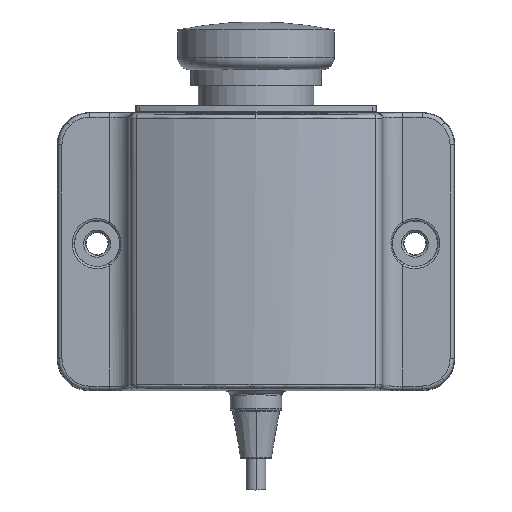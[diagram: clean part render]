
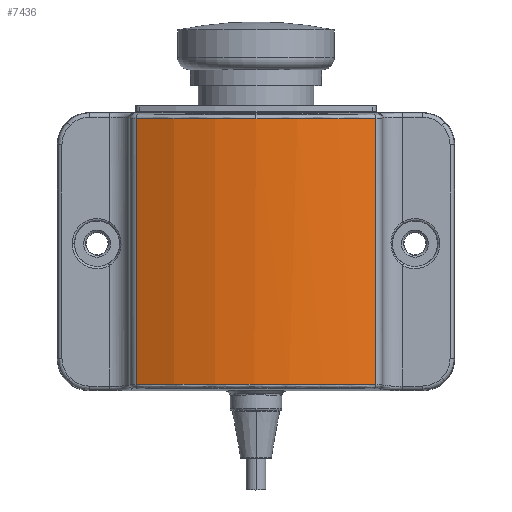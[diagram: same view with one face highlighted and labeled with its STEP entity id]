
A CAD part, top view. The second image highlights one B-rep face of the part: STEP entity #7436.
In plain terms, the highlighted cylindrical face has radius 62 mm (diameter 124 mm), a partial arc.
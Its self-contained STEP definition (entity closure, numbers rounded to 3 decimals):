
#831 = FACE_OUTER_BOUND ( 'NONE', #4131, .T. ) ;
#840 = CYLINDRICAL_SURFACE ( 'NONE', #11104, 62. ) ;
#1167 = LINE ( 'NONE', #6131, #1168 ) ;
#1168 = VECTOR ( 'NONE', #6132, 1000. ) ;
#1169 = LINE ( 'NONE', #6133, #1170 ) ;
#1170 = VECTOR ( 'NONE', #6134, 1000. ) ;
#1381 = CARTESIAN_POINT ( 'NONE',  ( -35.995, -38.626, 27.497 ) ) ;
#1385 = CARTESIAN_POINT ( 'NONE',  ( -16.799, -38.443, 38.194 ) ) ;
#1386 = CARTESIAN_POINT ( 'NONE',  ( 5.176, -38.443, 38.194 ) ) ;
#1387 = CARTESIAN_POINT ( 'NONE',  ( 24.371, -38.626, 27.497 ) ) ;
#1911 = ORIENTED_EDGE ( 'NONE', *, *, #12194, .T. ) ;
#3880 = EDGE_CURVE ( 'NONE', #6963, #7036, #10241, .T. ) ;
#4131 = EDGE_LOOP ( 'NONE', ( #5410, #5548, #5518, #5520, #1911 ) ) ;
#5410 = ORIENTED_EDGE ( 'NONE', *, *, #12162, .T. ) ;
#5518 = ORIENTED_EDGE ( 'NONE', *, *, #12161, .T. ) ;
#5520 = ORIENTED_EDGE ( 'NONE', *, *, #12185, .T. ) ;
#5548 = ORIENTED_EDGE ( 'NONE', *, *, #3880, .T. ) ;
#6131 = CARTESIAN_POINT ( 'NONE',  ( 24.371, 36.909, 27.497 ) ) ;
#6132 = DIRECTION ( 'NONE',  ( 0., 1., 0. ) ) ;
#6133 = CARTESIAN_POINT ( 'NONE',  ( -35.995, 36.909, 27.497 ) ) ;
#6134 = DIRECTION ( 'NONE',  ( 0., -1., 0. ) ) ;
#6194 = CARTESIAN_POINT ( 'NONE',  ( 24.371, 28.444, 27.497 ) ) ;
#6200 = CARTESIAN_POINT ( 'NONE',  ( 15.092, 28.355, 32.668 ) ) ;
#6201 = CARTESIAN_POINT ( 'NONE',  ( 4.811, 28.309, 35.339 ) ) ;
#6202 = CARTESIAN_POINT ( 'NONE',  ( -5.812, 28.309, 35.339 ) ) ;
#6963 = VERTEX_POINT ( 'NONE', #9968 ) ;
#7036 = VERTEX_POINT ( 'NONE', #10041 ) ;
#7059 = VERTEX_POINT ( 'NONE', #10064 ) ;
#7063 = VERTEX_POINT ( 'NONE', #10068 ) ;
#7116 = VERTEX_POINT ( 'NONE', #7265 ) ;
#7132 =( BOUNDED_CURVE ( )  B_SPLINE_CURVE ( 3, ( #6194, #6200, #6201, #6202 ),
 .UNSPECIFIED., .F., .T. ) 
 B_SPLINE_CURVE_WITH_KNOTS ( ( 4, 4 ),
 ( 5.775, 6.283 ),
 .UNSPECIFIED. ) 
 CURVE ( )  GEOMETRIC_REPRESENTATION_ITEM ( )  RATIONAL_B_SPLINE_CURVE ( ( 1., 0.979, 0.979, 1. ) ) 
 REPRESENTATION_ITEM ( '' )  );
#7134 =( BOUNDED_CURVE ( )  B_SPLINE_CURVE ( 3, ( #10130, #10133, #10134, #10135 ),
 .UNSPECIFIED., .F., .T. ) 
 B_SPLINE_CURVE_WITH_KNOTS ( ( 4, 4 ),
 ( 0., 0.508 ),
 .UNSPECIFIED. ) 
 CURVE ( )  GEOMETRIC_REPRESENTATION_ITEM ( )  RATIONAL_B_SPLINE_CURVE ( ( 1., 0.979, 0.979, 1. ) ) 
 REPRESENTATION_ITEM ( '' )  );
#7265 = CARTESIAN_POINT ( 'NONE',  ( -35.995, 28.444, 27.497 ) ) ;
#7396 = CARTESIAN_POINT ( 'NONE',  ( -5.812, 36.909, -26.661 ) ) ;
#7398 = DIRECTION ( 'NONE',  ( 0., 0., -1. ) ) ;
#7399 = DIRECTION ( 'NONE',  ( 0., -1., 0. ) ) ;
#7436 = ADVANCED_FACE ( 'NONE', ( #831 ), #840, .T. ) ;
#9968 = CARTESIAN_POINT ( 'NONE',  ( -35.995, -38.626, 27.497 ) ) ;
#10041 = CARTESIAN_POINT ( 'NONE',  ( 24.371, -38.626, 27.497 ) ) ;
#10064 = CARTESIAN_POINT ( 'NONE',  ( 24.371, 28.444, 27.497 ) ) ;
#10068 = CARTESIAN_POINT ( 'NONE',  ( -5.812, 28.309, 35.339 ) ) ;
#10130 = CARTESIAN_POINT ( 'NONE',  ( -5.812, 28.309, 35.339 ) ) ;
#10133 = CARTESIAN_POINT ( 'NONE',  ( -16.434, 28.309, 35.339 ) ) ;
#10134 = CARTESIAN_POINT ( 'NONE',  ( -26.716, 28.355, 32.668 ) ) ;
#10135 = CARTESIAN_POINT ( 'NONE',  ( -35.995, 28.444, 27.497 ) ) ;
#10241 =( BOUNDED_CURVE ( )  B_SPLINE_CURVE ( 3, ( #1381, #1385, #1386, #1387 ),
 .UNSPECIFIED., .F., .F. ) 
 B_SPLINE_CURVE_WITH_KNOTS ( ( 4, 4 ),
 ( 2.633, 3.65 ),
 .UNSPECIFIED. ) 
 CURVE ( )  GEOMETRIC_REPRESENTATION_ITEM ( )  RATIONAL_B_SPLINE_CURVE ( ( 1., 0.916, 0.916, 1. ) ) 
 REPRESENTATION_ITEM ( '' )  );
#11104 = AXIS2_PLACEMENT_3D ( 'NONE', #7396, #7399, #7398 ) ;
#12161 = EDGE_CURVE ( 'NONE', #7036, #7059, #1167, .T. ) ;
#12162 = EDGE_CURVE ( 'NONE', #7116, #6963, #1169, .T. ) ;
#12185 = EDGE_CURVE ( 'NONE', #7059, #7063, #7132, .T. ) ;
#12194 = EDGE_CURVE ( 'NONE', #7063, #7116, #7134, .T. ) ;
